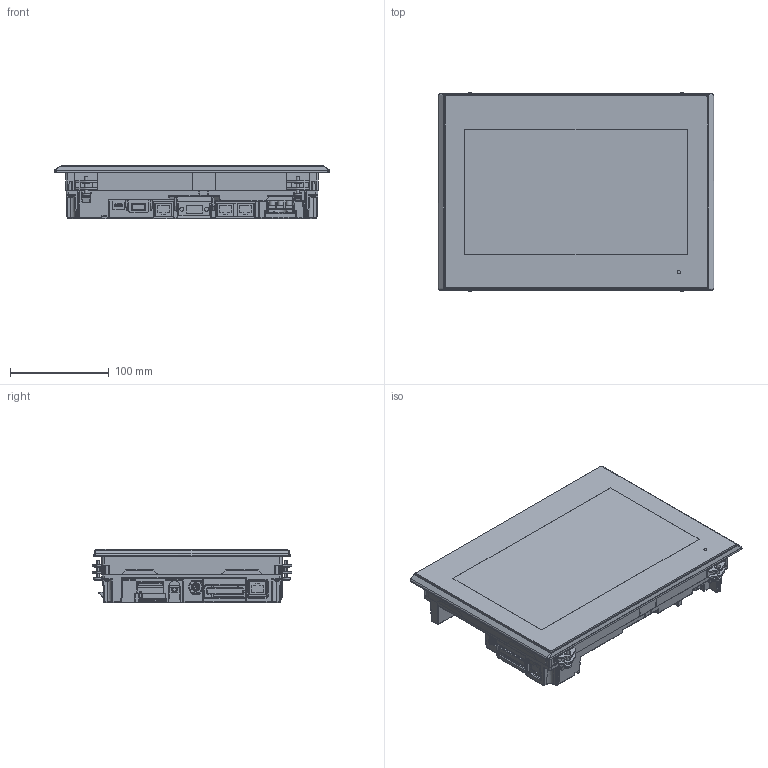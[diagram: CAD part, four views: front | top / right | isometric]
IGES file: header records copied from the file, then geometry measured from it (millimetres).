
Start section:  PTC IGES file: v9101iwrld_3d-data.igs
Global section: file name: v9101iwrld_3d-data.igs; native system: Pro/ENGINEER by Parametric Technology Corporation; preprocessor: 2011330; author: oda; organization: Unknown; date: 20141110.154300; units: millimetre
Bounding box: 278.5 x 201.4 x 54.35 mm (x, y, z)
Surface area: 174841 mm2 (no closed solid volume)
Topology: 0 solids, 0 shells, 2154 faces, 11266 edges, 11260 vertices
Faces by surface type: bspline 1446, revolution 695, extrusion 13
